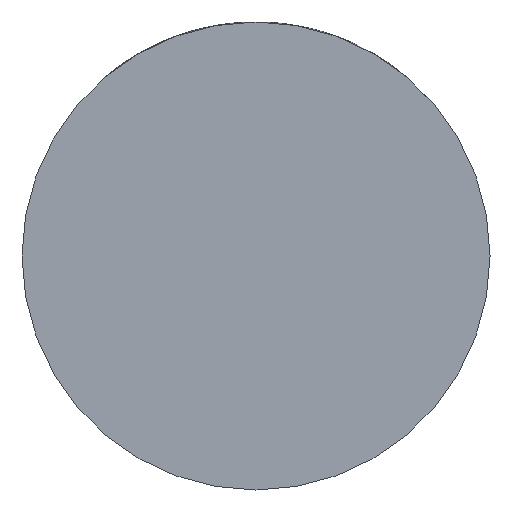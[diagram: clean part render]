
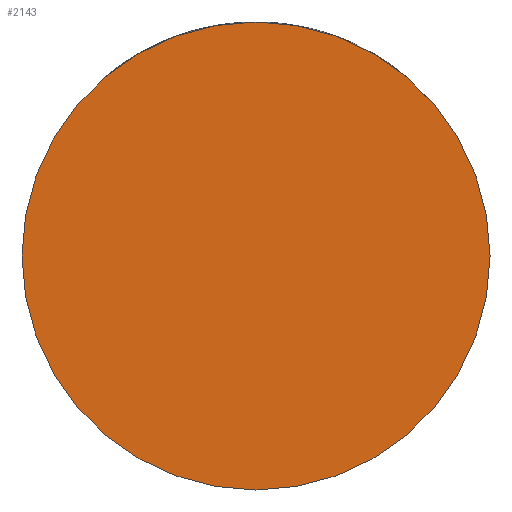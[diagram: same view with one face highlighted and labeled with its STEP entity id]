
A CAD part, front view. The second image highlights one B-rep face of the part: STEP entity #2143.
In plain terms, the highlighted planar face has unit normal (0, -1, 0).
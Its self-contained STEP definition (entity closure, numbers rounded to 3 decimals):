
#24 = EDGE_LOOP ( 'NONE', ( #655, #1610 ) ) ;
#64 = VERTEX_POINT ( 'NONE', #1332 ) ;
#362 = AXIS2_PLACEMENT_3D ( 'NONE', #1384, #1064, #2758 ) ;
#655 = ORIENTED_EDGE ( 'NONE', *, *, #1074, .T. ) ;
#1000 = DIRECTION ( 'NONE',  ( 1., 0., 0. ) ) ;
#1064 = DIRECTION ( 'NONE',  ( 0., -1., 0. ) ) ;
#1074 = EDGE_CURVE ( 'NONE', #2264, #64, #2550, .T. ) ;
#1075 = AXIS2_PLACEMENT_3D ( 'NONE', #1815, #1772, #3225 ) ;
#1332 = CARTESIAN_POINT ( 'NONE',  ( 29.5, -33., 0. ) ) ;
#1384 = CARTESIAN_POINT ( 'NONE',  ( 0., -33., 0. ) ) ;
#1610 = ORIENTED_EDGE ( 'NONE', *, *, #1740, .T. ) ;
#1740 = EDGE_CURVE ( 'NONE', #64, #2264, #2803, .T. ) ;
#1772 = DIRECTION ( 'NONE',  ( 0., -1., 0. ) ) ;
#1815 = CARTESIAN_POINT ( 'NONE',  ( 0., -33., 0. ) ) ;
#2081 = CARTESIAN_POINT ( 'NONE',  ( 0., -33., 0. ) ) ;
#2143 = ADVANCED_FACE ( 'NONE', ( #4534 ), #2825, .T. ) ;
#2264 = VERTEX_POINT ( 'NONE', #2946 ) ;
#2550 = CIRCLE ( 'NONE', #1075, 29.5 ) ;
#2731 = DIRECTION ( 'NONE',  ( 0., -1., 0. ) ) ;
#2758 = DIRECTION ( 'NONE',  ( 1., 0., 0. ) ) ;
#2803 = CIRCLE ( 'NONE', #3968, 29.5 ) ;
#2825 = PLANE ( 'NONE',  #362 ) ;
#2946 = CARTESIAN_POINT ( 'NONE',  ( -29.5, -33., 0. ) ) ;
#3225 = DIRECTION ( 'NONE',  ( 1., 0., 0. ) ) ;
#3968 = AXIS2_PLACEMENT_3D ( 'NONE', #2081, #2731, #1000 ) ;
#4534 = FACE_OUTER_BOUND ( 'NONE', #24, .T. ) ;
